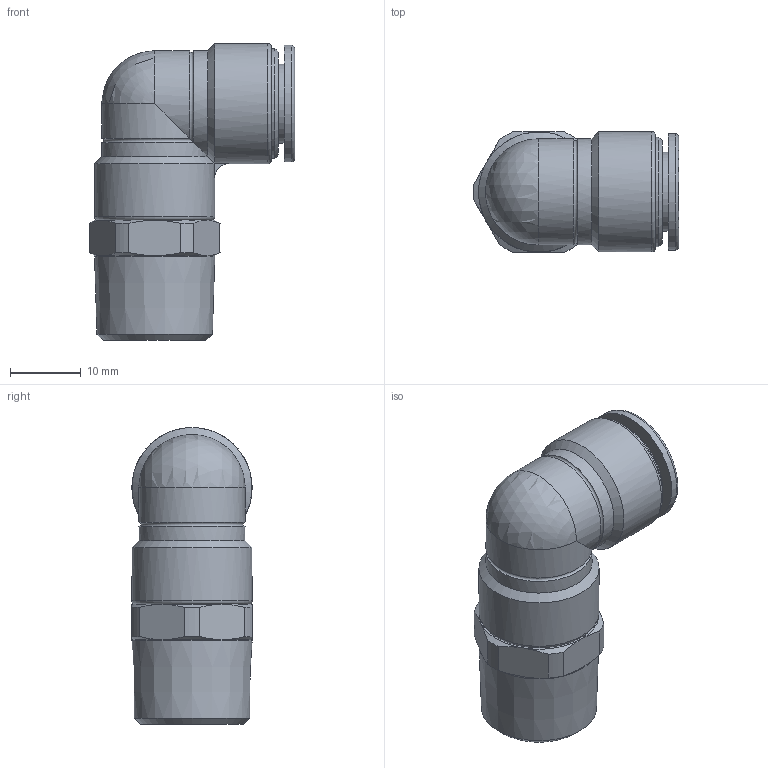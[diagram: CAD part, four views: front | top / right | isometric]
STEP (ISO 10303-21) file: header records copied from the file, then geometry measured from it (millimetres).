
FILE_DESCRIPTION(/* description */ (''),/* implementation_level */ '2;1');
FILE_NAME(/* name */ 'E:\2013年度版　3D-DATA\【02】 TOUCH CONNECTOR FIVE SUS\[02] MALE ELBOW\[13] FS10-03ML FS10-03MLW.stp',/* time_stamp */ '2013-08-06T16:48:54+09:00',/* author */ ('takahashi-pc2'),/* organization */ (''),/* preprocessor_version */ 'ST-DEVELOPER v15.2',/* originating_system */ 'Autodesk Inventor 2014',/* authorisation */ '');
FILE_SCHEMA (('AUTOMOTIVE_DESIGN { 1 0 10303 214 3 1 1 }'));
Length unit declared in the file: millimetre
Products named in the file (1): [13] FS10-03ML FS10-03MLW
Bounding box: 29.04 x 17 x 42 mm (x, y, z)
Volume: 9799.1 mm3; surface area: 3862.7 mm2
Topology: 1 solids, 1 shells, 60 faces, 138 edges, 83 vertices
Faces by surface type: plane 19, cylinder 18, cone 17, torus 5, sphere 1
Full cylindrical faces by diameter (mm): 10 x1, 11.2 x1, 15.5 x1, 16.5 x1, 17 x3
Entity records: 1623 total; most frequent: CARTESIAN_POINT 363, DIRECTION 272, ORIENTED_EDGE 242, AXIS2_PLACEMENT_3D 122, EDGE_CURVE 121, VERTEX_POINT 81, EDGE_LOOP 78, ADVANCED_FACE 60
